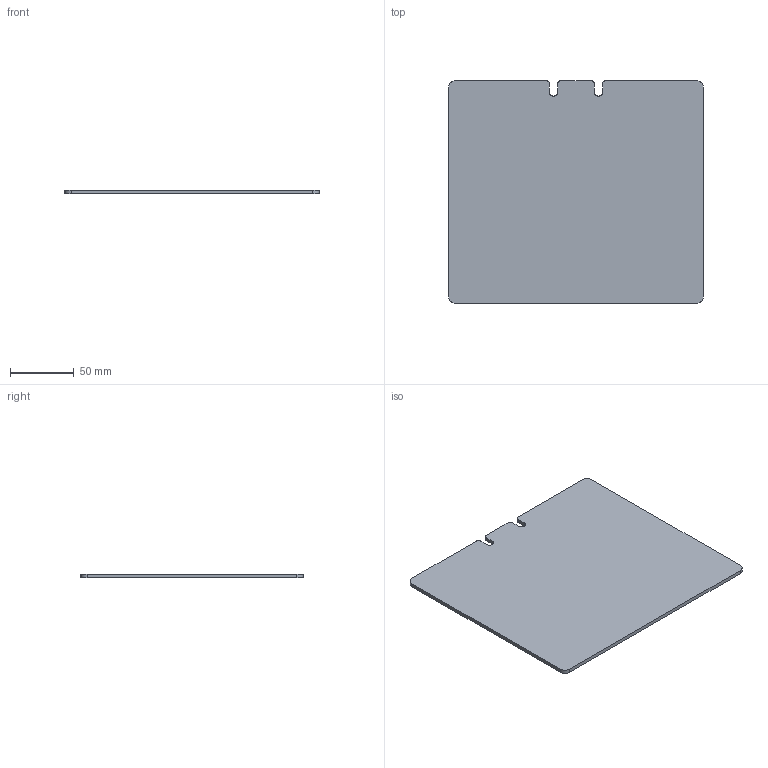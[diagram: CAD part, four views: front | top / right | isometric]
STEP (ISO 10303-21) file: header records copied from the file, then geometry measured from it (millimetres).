
FILE_DESCRIPTION( ( 'Gestell für Messebauer' ), '1' );
FILE_NAME( 'C:/Workspaces/zum löschen 2/D0001001070-Target UR3 150x200.stp', '190918', ( 'stw' ), ( 'Baumer Optronic' ), 'PSStep 19.0.9', 'ST9', ' ' );
FILE_SCHEMA( ( 'AUTOMOTIVE_DESIGN { 1 0 10303 214 1 1 1 1 }' ) );
Length unit declared in the file: millimetre
Products named in the file (2): Assem1; D0001001060-Target UR3 150x200
Assembly tree (1 placements, depth 2):
  Assem1
    D0001001060-Target UR3 150x200
Bounding box: 200 x 175 x 3 mm (x, y, z)
Volume: 104477.4 mm3; surface area: 71992.9 mm2
Topology: 1 solids, 1 shells, 22 faces, 60 edges, 40 vertices
Faces by surface type: plane 12, cylinder 10
Entity records: 918 total; most frequent: DIRECTION 128, CARTESIAN_POINT 124, ORIENTED_EDGE 120, EDGE_CURVE 60, AXIS2_PLACEMENT_3D 44, VERTEX_POINT 40, LINE 40, VECTOR 40
